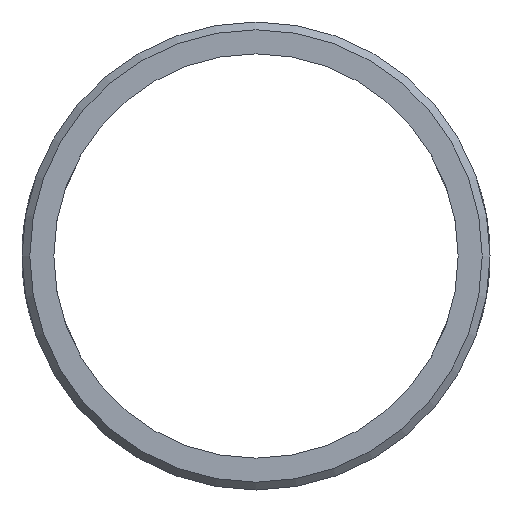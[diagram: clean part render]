
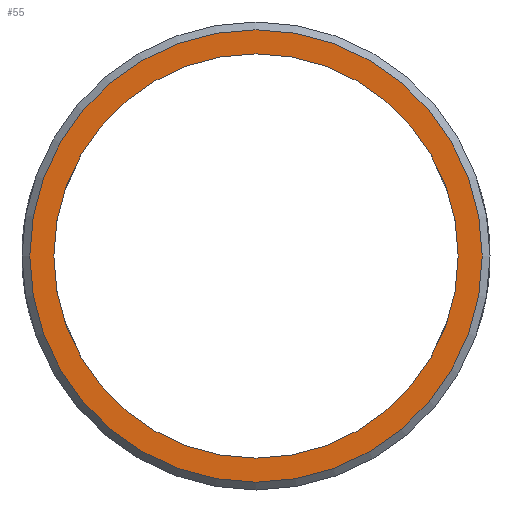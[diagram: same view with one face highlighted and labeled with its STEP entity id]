
A CAD part, front view. The second image highlights one B-rep face of the part: STEP entity #55.
In plain terms, the highlighted planar face has unit normal (0, -1, 0).
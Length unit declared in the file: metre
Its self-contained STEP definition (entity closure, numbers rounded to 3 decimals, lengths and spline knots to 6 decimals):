
#55 = ADVANCED_FACE( '', ( #109, #110 ), #111, .F. );
#109 = FACE_OUTER_BOUND( '', #156, .T. );
#110 = FACE_BOUND( '', #157, .T. );
#111 = PLANE( '', #158 );
#156 = EDGE_LOOP( '', ( #210 ) );
#157 = EDGE_LOOP( '', ( #211 ) );
#158 = AXIS2_PLACEMENT_3D( '', #212, #213, #214 );
#210 = ORIENTED_EDGE( '', *, *, #230, .T. );
#211 = ORIENTED_EDGE( '', *, *, #222, .F. );
#212 = CARTESIAN_POINT( '', ( 0., 0., 0. ) );
#213 = DIRECTION( '', ( 0., 1., 0. ) );
#214 = DIRECTION( '', ( 0., 0., 1. ) );
#222 = EDGE_CURVE( '', #244, #244, #245, .T. );
#230 = EDGE_CURVE( '', #257, #257, #258, .F. );
#244 = VERTEX_POINT( '', #337 );
#245 = CIRCLE( '', #338, 0.012959 );
#257 = VERTEX_POINT( '', #541 );
#258 = CIRCLE( '', #542, 0.0145 );
#337 = CARTESIAN_POINT( '', ( 0.012959, 0., 0. ) );
#338 = AXIS2_PLACEMENT_3D( '', #554, #555, #556 );
#541 = CARTESIAN_POINT( '', ( 0., 0., 0.0145 ) );
#542 = AXIS2_PLACEMENT_3D( '', #560, #561, #562 );
#554 = CARTESIAN_POINT( '', ( 0., 0., 0. ) );
#555 = DIRECTION( '', ( 0., -1., 0. ) );
#556 = DIRECTION( '', ( 1., 0., 0. ) );
#560 = CARTESIAN_POINT( '', ( 0., 0., 0. ) );
#561 = DIRECTION( '', ( 0., 1., 0. ) );
#562 = DIRECTION( '', ( 0., 0., 1. ) );
